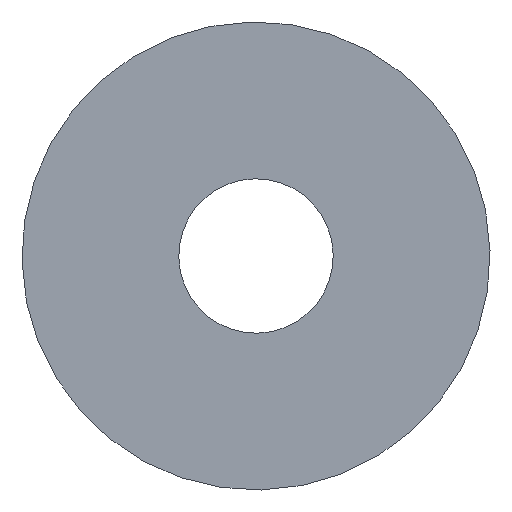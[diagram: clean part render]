
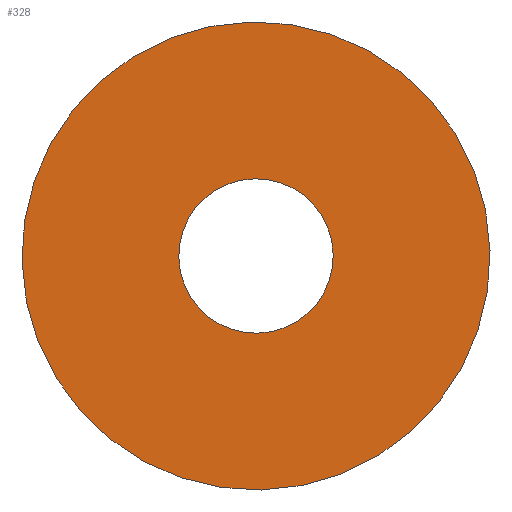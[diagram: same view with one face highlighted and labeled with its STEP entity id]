
A CAD part, left-side view. The second image highlights one B-rep face of the part: STEP entity #328.
In plain terms, the highlighted planar face has unit normal (-1, 0, 0).
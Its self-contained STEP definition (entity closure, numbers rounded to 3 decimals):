
#245=CARTESIAN_POINT('Vertex',(0.,-21.94,-11.986)) ;
#248=CARTESIAN_POINT('Axis2P3D Location',(0.,0.,0.)) ;
#252=CARTESIAN_POINT('Vertex',(0.,21.94,11.986)) ;
#267=CARTESIAN_POINT('Axis2P3D Location',(0.,0.,0.)) ;
#288=CARTESIAN_POINT('Vertex',(0.,7.24,3.955)) ;
#295=CARTESIAN_POINT('Vertex',(0.,-7.24,-3.955)) ;
#298=CARTESIAN_POINT('Axis2P3D Location',(0.,0.,0.)) ;
#310=CARTESIAN_POINT('Axis2P3D Location',(0.,19.5,0.)) ;
#319=CARTESIAN_POINT('Axis2P3D Location',(0.,0.,0.)) ;
#249=DIRECTION('Axis2P3D Direction',(1.,0.,0.)) ;
#268=DIRECTION('Axis2P3D Direction',(1.,0.,0.)) ;
#299=DIRECTION('Axis2P3D Direction',(1.,0.,0.)) ;
#311=DIRECTION('Axis2P3D Direction',(1.,0.,0.)) ;
#312=DIRECTION('Axis2P3D XDirection',(0.,1.,0.)) ;
#320=DIRECTION('Axis2P3D Direction',(1.,0.,0.)) ;
#250=AXIS2_PLACEMENT_3D('Circle Axis2P3D',#248,#249,$) ;
#269=AXIS2_PLACEMENT_3D('Circle Axis2P3D',#267,#268,$) ;
#300=AXIS2_PLACEMENT_3D('Circle Axis2P3D',#298,#299,$) ;
#313=AXIS2_PLACEMENT_3D('Plane Axis2P3D',#310,#311,#312) ;
#321=AXIS2_PLACEMENT_3D('Circle Axis2P3D',#319,#320,$) ;
#316=ORIENTED_EDGE('',*,*,#254,.F.) ;
#317=ORIENTED_EDGE('',*,*,#271,.F.) ;
#325=ORIENTED_EDGE('',*,*,#323,.T.) ;
#326=ORIENTED_EDGE('',*,*,#302,.T.) ;
#327=FACE_BOUND('',#324,.T.) ;
#328=ADVANCED_FACE('PartBody',(#318,#327),#314,.F.) ;
#251=CIRCLE('generated circle',#250,25.) ;
#270=CIRCLE('generated circle',#269,25.) ;
#301=CIRCLE('generated circle',#300,8.25) ;
#322=CIRCLE('generated circle',#321,8.25) ;
#254=EDGE_CURVE('',#246,#253,#251,.T.) ;
#271=EDGE_CURVE('',#253,#246,#270,.T.) ;
#302=EDGE_CURVE('',#289,#296,#301,.T.) ;
#323=EDGE_CURVE('',#296,#289,#322,.T.) ;
#315=EDGE_LOOP('',(#316,#317)) ;
#324=EDGE_LOOP('',(#325,#326)) ;
#318=FACE_OUTER_BOUND('',#315,.T.) ;
#314=PLANE('',#313) ;
#246=VERTEX_POINT('',#245) ;
#253=VERTEX_POINT('',#252) ;
#289=VERTEX_POINT('',#288) ;
#296=VERTEX_POINT('',#295) ;
